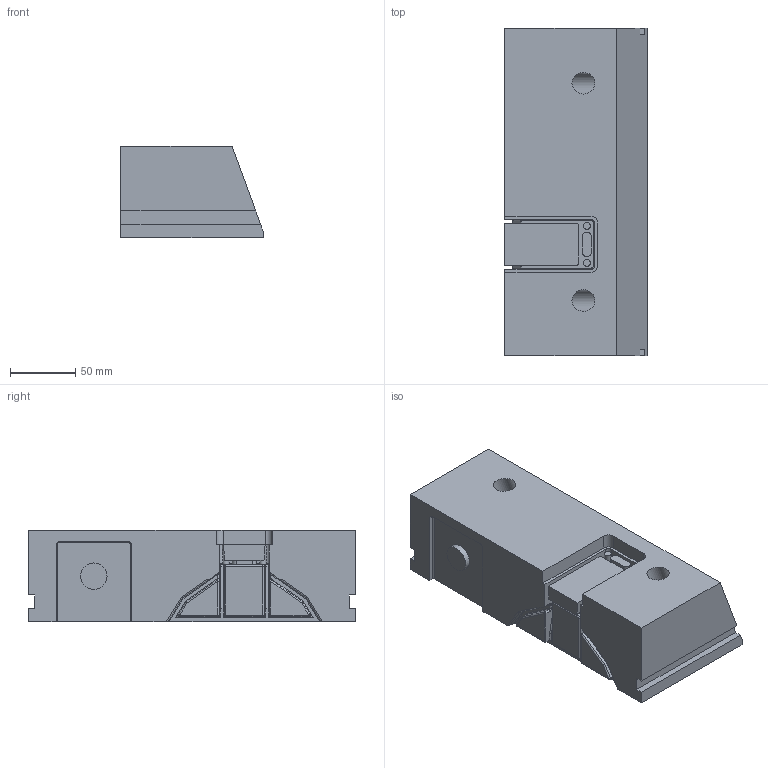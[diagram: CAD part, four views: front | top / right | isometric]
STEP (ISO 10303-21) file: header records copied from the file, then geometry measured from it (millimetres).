
FILE_DESCRIPTION( ( 'Unknown' ), '1' );
FILE_NAME( 'E:/Drawing Files Other/Dave/CDP/Support-Bracket 91mm Pitch/Support Bracket 91 Mould/Slide A.stp', 'Unknown', ( 'Unknown' ), ( 'Unknown' ), 'PSStep 15.0.49', 'Unknown', ' ' );
FILE_SCHEMA( ( 'AUTOMOTIVE_DESIGN { 1 0 10303 214 1 1 1 1 }' ) );
Length unit declared in the file: millimetre
Products named in the file (2): 1; 2
Bounding box: 108.66 x 250 x 70 mm (x, y, z)
Volume: 1590499.6 mm3; surface area: 119226.3 mm2
Topology: 2 solids, 2 shells, 200 faces, 499 edges, 307 vertices
Faces by surface type: plane 91, cylinder 70, bspline 15, torus 8, sphere 6, extrusion 6, cone 4
Full cylindrical faces by diameter (mm): 16.5 x2, 20.2 x1
Entity records: 9415 total; most frequent: CARTESIAN_POINT 3159, ORIENTED_EDGE 962, DIRECTION 940, EDGE_CURVE 481, AXIS2_PLACEMENT_3D 315, VECTOR 310, LINE 304, VERTEX_POINT 302
